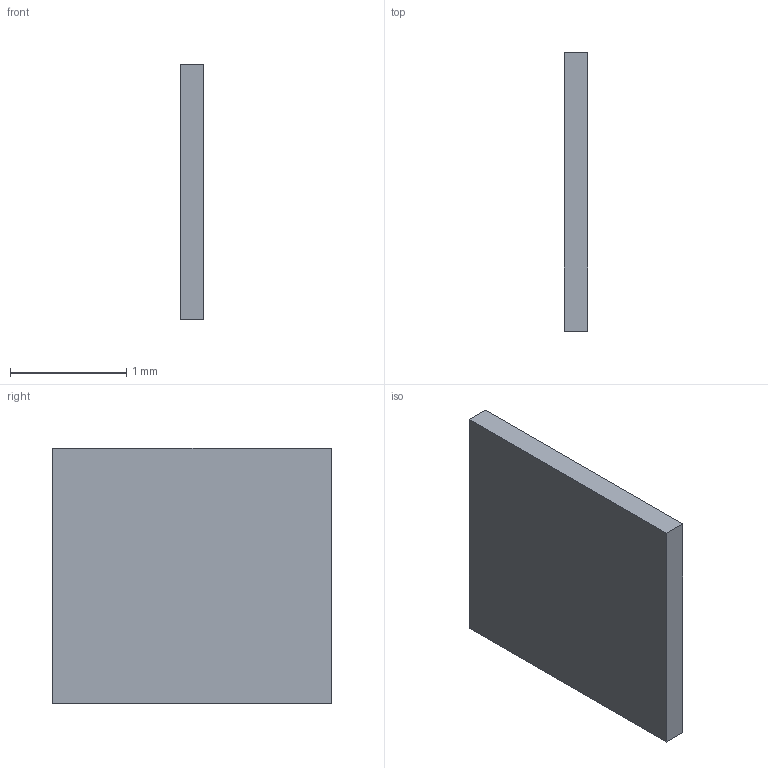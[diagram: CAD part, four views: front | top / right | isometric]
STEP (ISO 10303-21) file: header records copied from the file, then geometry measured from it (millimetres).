
FILE_DESCRIPTION(/* description */ (''),/* implementation_level */ '2;1');
FILE_NAME(/* name */ 'C28_R3_Volume_Down_Compliant_Contact_20.step',/* time_stamp */ '2026-09-10T17:50:08-07:00',/* author */ (''),/* organization */ (''),/* preprocessor_version */ 'ST-DEVELOPER v20.1',/* originating_system */ 'Autodesk Translation Framework v15.8.0.0',/* authorisation */ '');
FILE_SCHEMA (('AUTOMOTIVE_DESIGN { 1 0 10303 214 3 1 1 }'));
Length unit declared in the file: millimetre
Products named in the file (1): 2026-09-10-17-50-08-614
Bounding box: 0.2 x 2.4 x 2.2 mm (x, y, z)
Volume: 1.1 mm3; surface area: 12.4 mm2
Topology: 1 solids, 1 shells, 6 faces, 12 edges, 8 vertices
Faces by surface type: plane 6
Entity records: 189 total; most frequent: CARTESIAN_POINT 27, DIRECTION 26, ORIENTED_EDGE 24, LINE 12, VECTOR 12, EDGE_CURVE 12, VERTEX_POINT 8, AXIS2_PLACEMENT_3D 7
